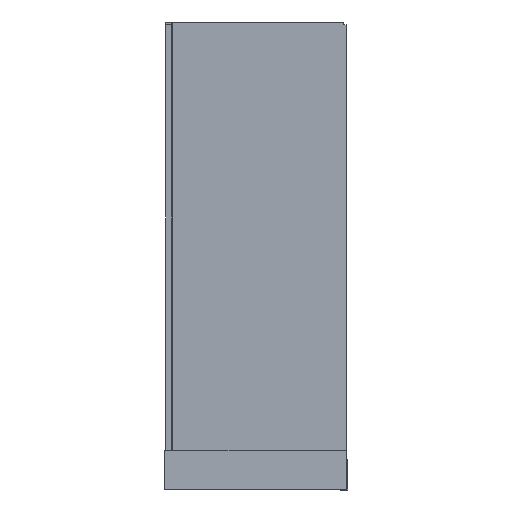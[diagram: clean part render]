
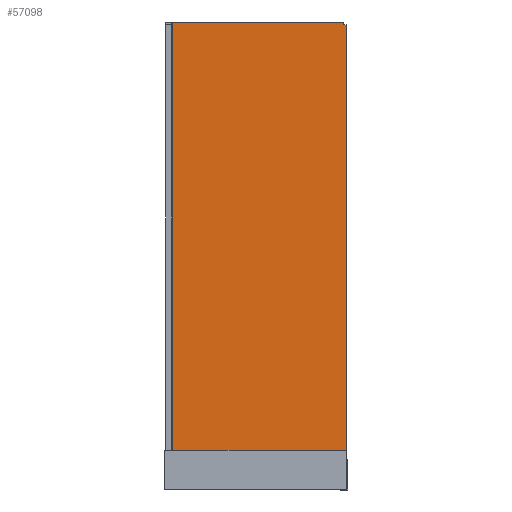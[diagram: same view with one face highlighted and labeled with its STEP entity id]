
A CAD part, left-side view. The second image highlights one B-rep face of the part: STEP entity #57098.
In plain terms, the highlighted free-form (B-spline) face has degree [1, 1] with [2, 2] control points.
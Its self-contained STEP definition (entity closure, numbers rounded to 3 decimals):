
#57010=CARTESIAN_POINT('',(-998.527,-789.402,173.92));
#57011=VERTEX_POINT('',#57010);
#57019=CARTESIAN_POINT('',(-998.527,-801.902,173.92));
#57020=VERTEX_POINT('',#57019);
#57027=CARTESIAN_POINT('',(-998.527,-801.902,173.92));
#57028=DIRECTION('',(0.0,1.0,0.0));
#57029=VECTOR('',#57028,12.5);
#57030=LINE('',#57027,#57029);
#57031=EDGE_CURVE('',#57020,#57011,#57030,.T.);
#57036=CARTESIAN_POINT('',(-998.527,-35.322,2063.14));
#57037=CARTESIAN_POINT('',(-998.527,-801.982,2063.14));
#57038=CARTESIAN_POINT('',(-998.527,-35.322,162.98));
#57039=CARTESIAN_POINT('',(-998.527,-801.982,162.98));
#57040=B_SPLINE_SURFACE_WITH_KNOTS('',1,1,((#57036,#57038),(#57037,#57039)),.UNSPECIFIED.,.F.,.F.,.U.,(2,2),(2,2),(82.959,849.619),(73.049,1973.209),.UNSPECIFIED.);
#57041=CARTESIAN_POINT('',(-998.527,-789.402,163.06));
#57042=VERTEX_POINT('',#57041);
#57043=CARTESIAN_POINT('',(-998.527,-789.402,173.92));
#57044=DIRECTION('',(0.0,0.0,-1.0));
#57045=VECTOR('',#57044,10.86);
#57046=LINE('',#57043,#57045);
#57047=EDGE_CURVE('',#57011,#57042,#57046,.T.);
#57048=ORIENTED_EDGE('',*,*,#57047,.F.);
#57049=ORIENTED_EDGE('',*,*,#57031,.F.);
#57050=CARTESIAN_POINT('',(-998.527,-801.902,2051.92));
#57051=VERTEX_POINT('',#57050);
#57052=CARTESIAN_POINT('',(-998.527,-801.902,2051.92));
#57053=DIRECTION('',(0.0,0.0,-1.0));
#57054=VECTOR('',#57053,1878.);
#57055=LINE('',#57052,#57054);
#57056=EDGE_CURVE('',#57051,#57020,#57055,.T.);
#57057=ORIENTED_EDGE('',*,*,#57056,.F.);
#57058=CARTESIAN_POINT('',(-998.527,-789.402,2051.92));
#57059=VERTEX_POINT('',#57058);
#57060=CARTESIAN_POINT('',(-998.527,-789.402,2051.92));
#57061=DIRECTION('',(0.0,-1.0,0.0));
#57062=VECTOR('',#57061,12.5);
#57063=LINE('',#57060,#57062);
#57064=EDGE_CURVE('',#57059,#57051,#57063,.T.);
#57065=ORIENTED_EDGE('',*,*,#57064,.F.);
#57066=CARTESIAN_POINT('',(-998.527,-789.402,2063.06));
#57067=VERTEX_POINT('',#57066);
#57068=CARTESIAN_POINT('',(-998.527,-789.402,2063.06));
#57069=DIRECTION('',(0.0,0.0,-1.0));
#57070=VECTOR('',#57069,11.14);
#57071=LINE('',#57068,#57070);
#57072=EDGE_CURVE('',#57067,#57059,#57071,.T.);
#57073=ORIENTED_EDGE('',*,*,#57072,.F.);
#57074=CARTESIAN_POINT('',(-998.527,-35.402,2063.06));
#57075=VERTEX_POINT('',#57074);
#57076=CARTESIAN_POINT('',(-998.527,-35.402,2063.06));
#57077=DIRECTION('',(0.0,-1.0,0.0));
#57078=VECTOR('',#57077,754.);
#57079=LINE('',#57076,#57078);
#57080=EDGE_CURVE('',#57075,#57067,#57079,.T.);
#57081=ORIENTED_EDGE('',*,*,#57080,.F.);
#57082=CARTESIAN_POINT('',(-998.527,-35.402,163.06));
#57083=VERTEX_POINT('',#57082);
#57084=CARTESIAN_POINT('',(-998.527,-35.402,163.06));
#57085=DIRECTION('',(0.0,0.0,1.0));
#57086=VECTOR('',#57085,1900.);
#57087=LINE('',#57084,#57086);
#57088=EDGE_CURVE('',#57083,#57075,#57087,.T.);
#57089=ORIENTED_EDGE('',*,*,#57088,.F.);
#57090=CARTESIAN_POINT('',(-998.527,-789.402,163.06));
#57091=DIRECTION('',(0.0,1.0,0.0));
#57092=VECTOR('',#57091,754.);
#57093=LINE('',#57090,#57092);
#57094=EDGE_CURVE('',#57042,#57083,#57093,.T.);
#57095=ORIENTED_EDGE('',*,*,#57094,.F.);
#57096=EDGE_LOOP('',(#57048,#57049,#57057,#57065,#57073,#57081,#57089,#57095));
#57097=FACE_OUTER_BOUND('',#57096,.T.);
#57098=ADVANCED_FACE('',(#57097),#57040,.F.);
